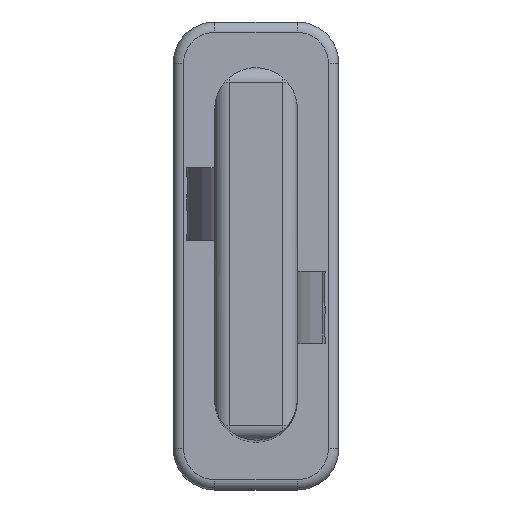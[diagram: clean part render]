
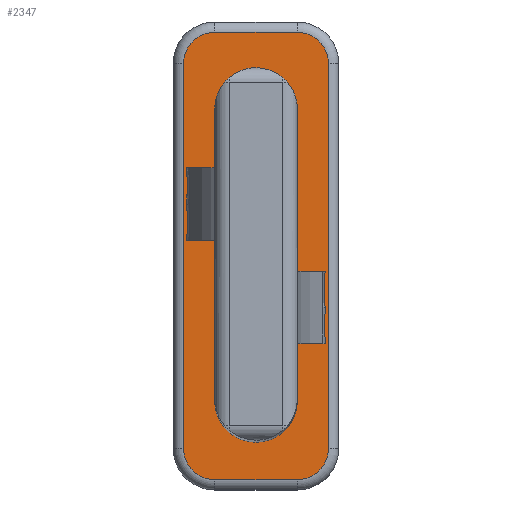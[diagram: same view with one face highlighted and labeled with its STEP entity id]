
A CAD part, top view. The second image highlights one B-rep face of the part: STEP entity #2347.
In plain terms, the highlighted planar face has unit normal (0, 0, 1).
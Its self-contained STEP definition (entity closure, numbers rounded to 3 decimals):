
#864=CARTESIAN_POINT('',(4.,-11.141,2.));
#865=VERTEX_POINT('',#864);
#872=CARTESIAN_POINT('',(4.,2.859,2.));
#873=VERTEX_POINT('',#872);
#874=CARTESIAN_POINT('',(4.,-11.141,2.));
#875=DIRECTION('',(0.0,1.0,0.0));
#876=VECTOR('',#875,14.);
#877=LINE('',#874,#876);
#878=EDGE_CURVE('',#865,#873,#877,.T.);
#1407=CARTESIAN_POINT('',(0.0,-11.141,2.0));
#1408=VERTEX_POINT('',#1407);
#1423=CARTESIAN_POINT('',(0.0,2.859,2.0));
#1424=VERTEX_POINT('',#1423);
#1431=CARTESIAN_POINT('',(0.0,2.859,2.0));
#1432=DIRECTION('',(0.0,-1.0,0.0));
#1433=VECTOR('',#1432,14.);
#1434=LINE('',#1431,#1433);
#1435=EDGE_CURVE('',#1424,#1408,#1434,.T.);
#1952=CARTESIAN_POINT('',(0.0,6.665,2.));
#1953=VERTEX_POINT('',#1952);
#1961=CARTESIAN_POINT('',(4.0,6.665,2.));
#1962=VERTEX_POINT('',#1961);
#1963=CARTESIAN_POINT('',(0.0,6.665,2.));
#1964=DIRECTION('',(1.0,0.0,0.0));
#1965=VECTOR('',#1964,4.0);
#1966=LINE('',#1963,#1965);
#1967=EDGE_CURVE('',#1953,#1962,#1966,.T.);
#1994=CARTESIAN_POINT('',(-1.5,5.165,2.));
#1995=VERTEX_POINT('',#1994);
#2003=CARTESIAN_POINT('',(0.0,5.165,2.));
#2004=DIRECTION('',(0.0,0.0,-1.));
#2005=DIRECTION('',(-0.707,0.707,0.0));
#2006=AXIS2_PLACEMENT_3D('',#2003,#2004,#2005);
#2007=CIRCLE('',#2006,1.5);
#2008=EDGE_CURVE('',#1995,#1953,#2007,.T.);
#2026=CARTESIAN_POINT('',(5.5,5.165,2.));
#2027=VERTEX_POINT('',#2026);
#2045=CARTESIAN_POINT('',(4.0,5.165,2.));
#2046=DIRECTION('',(0.0,0.0,-1.0));
#2047=DIRECTION('',(0.707,0.707,0.0));
#2048=AXIS2_PLACEMENT_3D('',#2045,#2046,#2047);
#2049=CIRCLE('',#2048,1.5);
#2050=EDGE_CURVE('',#1962,#2027,#2049,.T.);
#2062=CARTESIAN_POINT('',(-1.5,-13.447,2.));
#2063=VERTEX_POINT('',#2062);
#2071=CARTESIAN_POINT('',(-1.5,-13.447,2.));
#2072=DIRECTION('',(0.0,1.0,0.0));
#2073=VECTOR('',#2072,18.612);
#2074=LINE('',#2071,#2073);
#2075=EDGE_CURVE('',#2063,#1995,#2074,.T.);
#2092=CARTESIAN_POINT('',(5.5,-13.447,2.));
#2093=VERTEX_POINT('',#2092);
#2110=CARTESIAN_POINT('',(5.5,5.165,2.));
#2111=DIRECTION('',(0.0,-1.0,0.0));
#2112=VECTOR('',#2111,18.612);
#2113=LINE('',#2110,#2112);
#2114=EDGE_CURVE('',#2027,#2093,#2113,.T.);
#2126=CARTESIAN_POINT('',(0.0,-14.947,2.));
#2127=VERTEX_POINT('',#2126);
#2135=CARTESIAN_POINT('',(0.0,-13.447,2.));
#2136=DIRECTION('',(0.0,0.0,-1.0));
#2137=DIRECTION('',(-0.707,-0.707,0.0));
#2138=AXIS2_PLACEMENT_3D('',#2135,#2136,#2137);
#2139=CIRCLE('',#2138,1.5);
#2140=EDGE_CURVE('',#2127,#2063,#2139,.T.);
#2158=CARTESIAN_POINT('',(4.0,-14.947,2.));
#2159=VERTEX_POINT('',#2158);
#2177=CARTESIAN_POINT('',(4.0,-13.447,2.));
#2178=DIRECTION('',(0.0,0.0,-1.0));
#2179=DIRECTION('',(0.707,-0.707,0.0));
#2180=AXIS2_PLACEMENT_3D('',#2177,#2178,#2179);
#2181=CIRCLE('',#2180,1.5);
#2182=EDGE_CURVE('',#2093,#2159,#2181,.T.);
#2200=CARTESIAN_POINT('',(4.0,-14.947,2.));
#2201=DIRECTION('',(-1.0,0.0,0.0));
#2202=VECTOR('',#2201,4.0);
#2203=LINE('',#2200,#2202);
#2204=EDGE_CURVE('',#2159,#2127,#2203,.T.);
#2314=CARTESIAN_POINT('',(0.0,4.859,2.));
#2315=DIRECTION('',(0.0,0.0,1.0));
#2316=DIRECTION('',(-1.0,0.0,0.0));
#2317=AXIS2_PLACEMENT_3D('',#2314,#2315,#2316);
#2318=PLANE('',#2317);
#2319=ORIENTED_EDGE('',*,*,#1967,.F.);
#2320=ORIENTED_EDGE('',*,*,#2008,.F.);
#2321=ORIENTED_EDGE('',*,*,#2075,.F.);
#2322=ORIENTED_EDGE('',*,*,#2140,.F.);
#2323=ORIENTED_EDGE('',*,*,#2204,.F.);
#2324=ORIENTED_EDGE('',*,*,#2182,.F.);
#2325=ORIENTED_EDGE('',*,*,#2114,.F.);
#2326=ORIENTED_EDGE('',*,*,#2050,.F.);
#2327=EDGE_LOOP('',(#2319,#2320,#2321,#2322,#2323,#2324,#2325,#2326));
#2328=FACE_OUTER_BOUND('',#2327,.T.);
#2329=CARTESIAN_POINT('',(2.,-11.141,2.));
#2330=DIRECTION('',(0.,0.,-1.0));
#2331=DIRECTION('',(-0.707,-0.707,0.));
#2332=AXIS2_PLACEMENT_3D('',#2329,#2330,#2331);
#2333=CIRCLE('',#2332,2.);
#2334=EDGE_CURVE('',#1408,#865,#2333,.F.);
#2335=ORIENTED_EDGE('',*,*,#2334,.F.);
#2336=ORIENTED_EDGE('',*,*,#1435,.F.);
#2337=CARTESIAN_POINT('',(2.,2.859,2.));
#2338=DIRECTION('',(0.0,0.0,-1.0));
#2339=DIRECTION('',(0.707,0.707,0.0));
#2340=AXIS2_PLACEMENT_3D('',#2337,#2338,#2339);
#2341=CIRCLE('',#2340,2.0);
#2342=EDGE_CURVE('',#873,#1424,#2341,.F.);
#2343=ORIENTED_EDGE('',*,*,#2342,.F.);
#2344=ORIENTED_EDGE('',*,*,#878,.F.);
#2345=EDGE_LOOP('',(#2335,#2336,#2343,#2344));
#2346=FACE_BOUND('',#2345,.T.);
#2347=ADVANCED_FACE('',(#2328,#2346),#2318,.T.);
